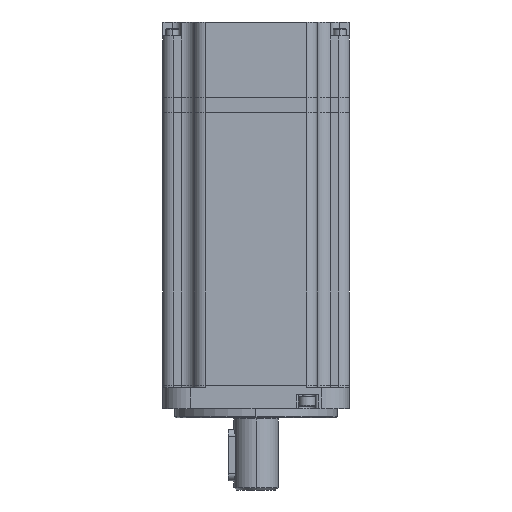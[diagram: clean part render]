
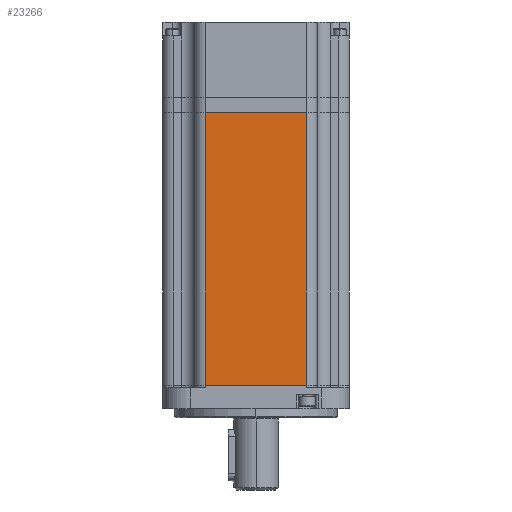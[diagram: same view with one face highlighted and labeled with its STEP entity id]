
A CAD part, left-side view. The second image highlights one B-rep face of the part: STEP entity #23266.
In plain terms, the highlighted planar face has unit normal (-1, 0, 0).
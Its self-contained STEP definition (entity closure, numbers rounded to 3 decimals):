
#468 = VECTOR ( 'NONE', #34116, 1000. ) ;
#741 = VERTEX_POINT ( 'NONE', #33804 ) ;
#10099 = LINE ( 'NONE', #15229, #17748 ) ;
#12930 = DIRECTION ( 'NONE',  ( 1., 0., 0. ) ) ;
#14249 = EDGE_CURVE ( 'NONE', #741, #33342, #25398, .T. ) ;
#14615 = CARTESIAN_POINT ( 'NONE',  ( -39.205, 25.902, 127.1 ) ) ;
#14846 = VERTEX_POINT ( 'NONE', #37723 ) ;
#15229 = CARTESIAN_POINT ( 'NONE',  ( -39.205, 25.902, 10. ) ) ;
#16062 = EDGE_CURVE ( 'NONE', #14846, #33342, #25248, .T. ) ;
#16196 = CARTESIAN_POINT ( 'NONE',  ( -39.205, 25.902, 127.1 ) ) ;
#16794 = EDGE_CURVE ( 'NONE', #741, #39401, #24688, .T. ) ;
#17748 = VECTOR ( 'NONE', #25057, 1000. ) ;
#18236 = FACE_OUTER_BOUND ( 'NONE', #41094, .T. ) ;
#19085 = CARTESIAN_POINT ( 'NONE',  ( -39.205, 21.402, 10. ) ) ;
#19469 = PLANE ( 'NONE',  #24114 ) ;
#20415 = CARTESIAN_POINT ( 'NONE',  ( -39.205, -22.098, 127.1 ) ) ;
#22731 = DIRECTION ( 'NONE',  ( 0., 0., 1. ) ) ;
#23035 = ORIENTED_EDGE ( 'NONE', *, *, #16794, .T. ) ;
#23094 = EDGE_CURVE ( 'NONE', #39401, #14846, #10099, .T. ) ;
#23266 = ADVANCED_FACE ( 'NONE', ( #18236 ), #19469, .F. ) ;
#23705 = DIRECTION ( 'NONE',  ( 0., 0., 1. ) ) ;
#24114 = AXIS2_PLACEMENT_3D ( 'NONE', #16196, #12930, #22731 ) ;
#24688 = LINE ( 'NONE', #37467, #40990 ) ;
#24897 = ORIENTED_EDGE ( 'NONE', *, *, #23094, .T. ) ;
#25057 = DIRECTION ( 'NONE',  ( 0., -1., 0. ) ) ;
#25248 = LINE ( 'NONE', #20415, #41547 ) ;
#25398 = LINE ( 'NONE', #14615, #468 ) ;
#29921 = ORIENTED_EDGE ( 'NONE', *, *, #16062, .T. ) ;
#32867 = CARTESIAN_POINT ( 'NONE',  ( -39.205, -22.098, 127.1 ) ) ;
#33342 = VERTEX_POINT ( 'NONE', #32867 ) ;
#33804 = CARTESIAN_POINT ( 'NONE',  ( -39.205, 21.402, 127.1 ) ) ;
#34116 = DIRECTION ( 'NONE',  ( 0., -1., 0. ) ) ;
#37459 = ORIENTED_EDGE ( 'NONE', *, *, #14249, .F. ) ;
#37467 = CARTESIAN_POINT ( 'NONE',  ( -39.205, 21.402, 127.1 ) ) ;
#37723 = CARTESIAN_POINT ( 'NONE',  ( -39.205, -22.098, 10. ) ) ;
#39401 = VERTEX_POINT ( 'NONE', #19085 ) ;
#40748 = DIRECTION ( 'NONE',  ( 0., 0., -1. ) ) ;
#40990 = VECTOR ( 'NONE', #40748, 1000. ) ;
#41094 = EDGE_LOOP ( 'NONE', ( #37459, #23035, #24897, #29921 ) ) ;
#41547 = VECTOR ( 'NONE', #23705, 1000. ) ;
